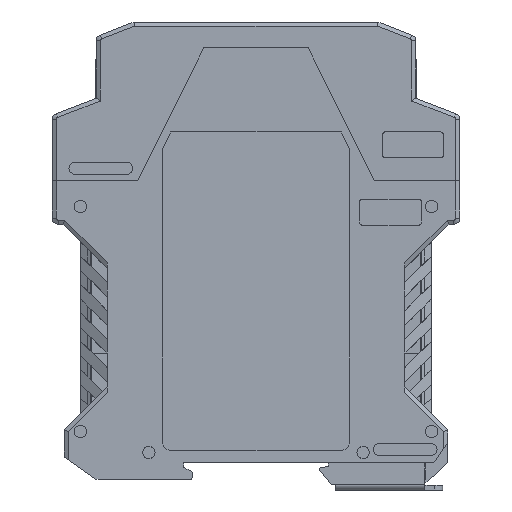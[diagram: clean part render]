
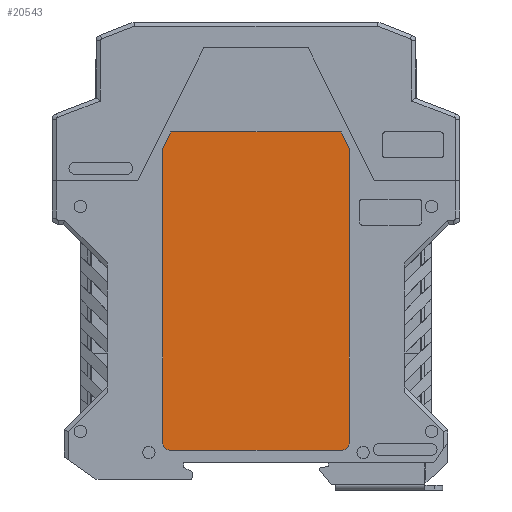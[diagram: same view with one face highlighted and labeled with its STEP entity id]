
A CAD part, front view. The second image highlights one B-rep face of the part: STEP entity #20543.
In plain terms, the highlighted planar face has unit normal (0, -1, 0).
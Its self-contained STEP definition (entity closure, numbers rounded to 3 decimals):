
#20543=ADVANCED_FACE('',(#40595),#40597,.T.);
#40595=FACE_BOUND('',#40596,.T.);
#40596=EDGE_LOOP('',(#56793,#56794,#56795,#56796,#56797,#56798,#56799,#56800));
#40597=PLANE('',#40598);
#40598=AXIS2_PLACEMENT_3D('',#40599,#40600,#40601);
#40599=CARTESIAN_POINT('',(34.89,0.2,66.275));
#40600=DIRECTION('',(0.,-1.,0.));
#40601=DIRECTION('',(0.,0.,-1.));
#56793=ORIENTED_EDGE('',*,*,#65445,.T.);
#56794=ORIENTED_EDGE('',*,*,#65443,.F.);
#56795=ORIENTED_EDGE('',*,*,#65441,.T.);
#56796=ORIENTED_EDGE('',*,*,#65439,.F.);
#56797=ORIENTED_EDGE('',*,*,#65437,.T.);
#56798=ORIENTED_EDGE('',*,*,#65435,.F.);
#56799=ORIENTED_EDGE('',*,*,#65449,.T.);
#56800=ORIENTED_EDGE('',*,*,#65447,.F.);
#65435=EDGE_CURVE('',#76891,#76893,#76894,.T.);
#65437=EDGE_CURVE('',#76896,#76893,#76897,.T.);
#65439=EDGE_CURVE('',#76896,#76899,#76900,.T.);
#65441=EDGE_CURVE('',#76902,#76899,#76903,.T.);
#65443=EDGE_CURVE('',#76902,#76905,#76906,.T.);
#65445=EDGE_CURVE('',#76908,#76905,#76909,.T.);
#65447=EDGE_CURVE('',#76908,#76911,#76912,.T.);
#65449=EDGE_CURVE('',#76891,#76911,#76914,.T.);
#76891=VERTEX_POINT('',#103079);
#76893=VERTEX_POINT('',#103083);
#76894=LINE('',#103084,#103085);
#76896=VERTEX_POINT('',#103090);
#76897=CIRCLE('',#103091,2.);
#76899=VERTEX_POINT('',#103098);
#76900=LINE('',#103099,#103100);
#76902=VERTEX_POINT('',#103105);
#76903=CIRCLE('',#103106,2.);
#76905=VERTEX_POINT('',#103113);
#76906=LINE('',#103114,#103115);
#76908=VERTEX_POINT('',#103120);
#76909=LINE('',#103121,#103122);
#76911=VERTEX_POINT('',#103127);
#76912=LINE('',#103128,#103129);
#76914=LINE('',#103134,#103135);
#103079=CARTESIAN_POINT('',(22.65,0.2,76.3));
#103083=CARTESIAN_POINT('',(22.65,0.2,5.));
#103084=CARTESIAN_POINT('',(22.65,0.2,76.3));
#103085=VECTOR('',#103086,1.);
#103086=DIRECTION('',(0.,0.,-1.));
#103090=CARTESIAN_POINT('',(20.65,0.2,3.));
#103091=AXIS2_PLACEMENT_3D('',#103092,#103093,#103094);
#103092=CARTESIAN_POINT('',(20.65,0.2,5.));
#103093=DIRECTION('',(0.,-1.,0.));
#103094=DIRECTION('',(0.,0.,-1.));
#103098=CARTESIAN_POINT('',(-20.65,0.2,3.));
#103099=CARTESIAN_POINT('',(20.65,0.2,3.));
#103100=VECTOR('',#103101,1.);
#103101=DIRECTION('',(-1.,0.,0.));
#103105=CARTESIAN_POINT('',(-22.65,0.2,5.));
#103106=AXIS2_PLACEMENT_3D('',#103107,#103108,#103109);
#103107=CARTESIAN_POINT('',(-20.65,0.2,5.));
#103108=DIRECTION('',(0.,-1.,0.));
#103109=DIRECTION('',(-1.,0.,0.));
#103113=CARTESIAN_POINT('',(-22.65,0.2,76.3));
#103114=CARTESIAN_POINT('',(-22.65,0.2,5.));
#103115=VECTOR('',#103116,1.);
#103116=DIRECTION('',(0.,0.,1.));
#103120=CARTESIAN_POINT('',(-20.65,0.2,80.3));
#103121=CARTESIAN_POINT('',(-20.65,0.2,80.3));
#103122=VECTOR('',#103123,1.);
#103123=DIRECTION('',(-0.447,0.,-0.894));
#103127=CARTESIAN_POINT('',(20.65,0.2,80.3));
#103128=CARTESIAN_POINT('',(-20.65,0.2,80.3));
#103129=VECTOR('',#103130,1.);
#103130=DIRECTION('',(1.,0.,0.));
#103134=CARTESIAN_POINT('',(22.65,0.2,76.3));
#103135=VECTOR('',#103136,1.);
#103136=DIRECTION('',(-0.447,0.,0.894));
